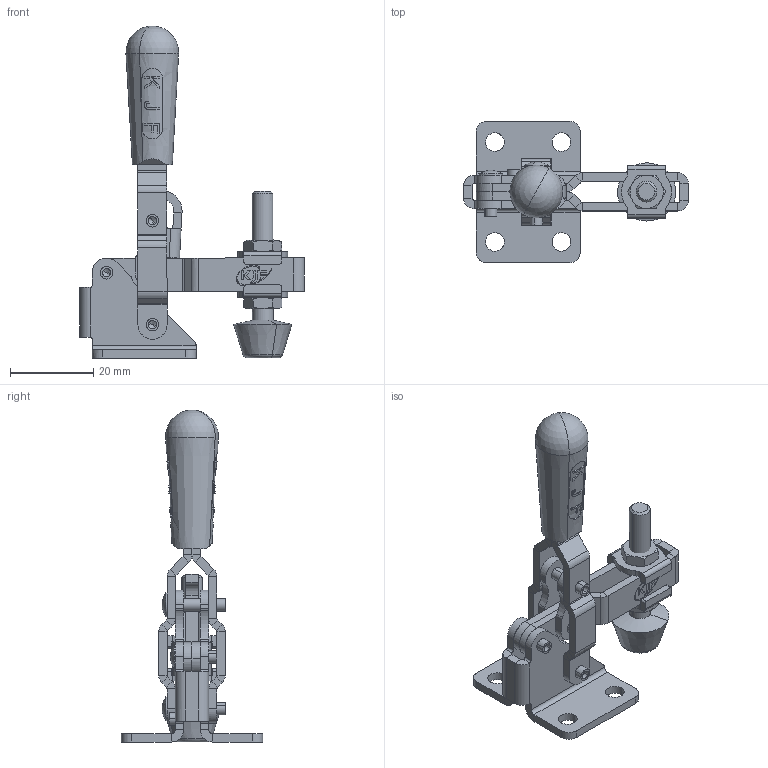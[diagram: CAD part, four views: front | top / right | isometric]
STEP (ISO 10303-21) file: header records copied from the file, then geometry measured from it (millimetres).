
FILE_DESCRIPTION(('CATIA V5 STEP Exchange'),'2;1');
FILE_NAME('\\kjf-102\KJF_TC\Toggle_Clamp\Vertical\KJF-005-11F\Rev_B\배포용\KJF-005-11FS_B.stp','2026-05-21T02:48:25+00:00',('none'),('none'),'CATIA Version 5 Release 19 SP 9 (IN-10)','CATIA V5 STEP AP203','none');
FILE_SCHEMA(('CONFIG_CONTROL_DESIGN'));
Products named in the file (1): KJF-005-11FS_A
Assembly tree (14 placements, depth 2):
  KJF-005-11FS_A
    #58
    #3247
    #44064
    #45805
    #47546
    #49737  x2
    #50084  x2
    #50431
    #52251
    #62343  x2
    #62906
Bounding box: 54.01 x 34 x 79.85 mm (x, y, z)
Volume: 12006.2 mm3; surface area: 14275.7 mm2
Topology: 17 solids, 17 shells, 1970 faces, 5481 edges, 3565 vertices
Faces by surface type: plane 1670, cylinder 232, cone 42, sphere 10, torus 10, bspline 6
Entity records: 63228 total; most frequent: CARTESIAN_POINT 15638, ORIENTED_EDGE 10750, DIRECTION 8200, EDGE_CURVE 5375, VECTOR 4338, LINE 4338, VERTEX_POINT 3509, AXIS2_PLACEMENT_3D 2032
